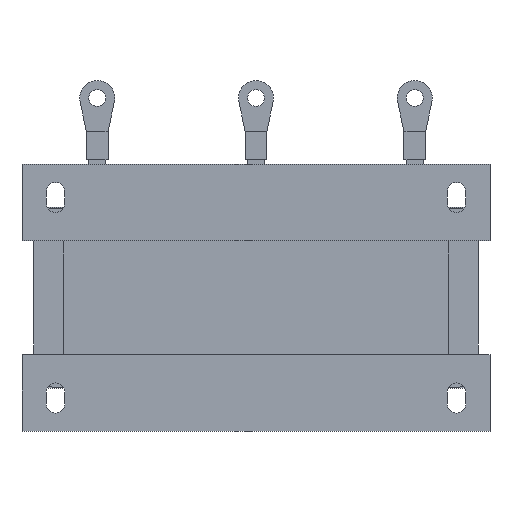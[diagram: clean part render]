
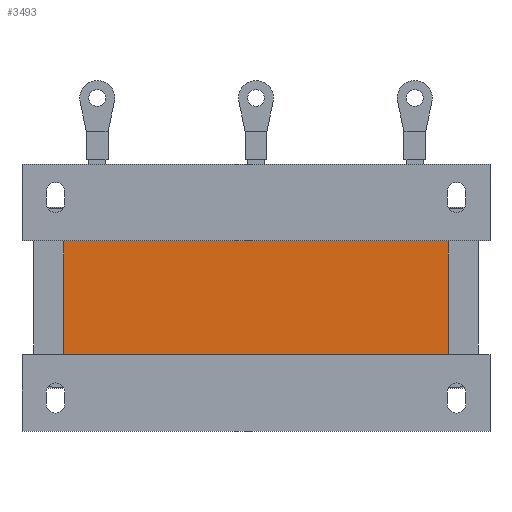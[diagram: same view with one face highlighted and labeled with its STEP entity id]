
A CAD part, front view. The second image highlights one B-rep face of the part: STEP entity #3493.
In plain terms, the highlighted planar face has unit normal (0, -1, 0).
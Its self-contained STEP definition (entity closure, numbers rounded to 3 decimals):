
#123=PLANE('',#3776);
#305=FACE_OUTER_BOUND('',#515,.T.);
#515=EDGE_LOOP('',(#2919,#2920,#2921,#2922));
#715=LINE('',#5093,#1149);
#740=LINE('',#5149,#1174);
#745=LINE('',#5160,#1179);
#871=LINE('',#5459,#1305);
#1149=VECTOR('',#4136,10.);
#1174=VECTOR('',#4183,10.);
#1179=VECTOR('',#4192,10.);
#1305=VECTOR('',#4444,10.);
#1643=VERTEX_POINT('',#5090);
#1644=VERTEX_POINT('',#5092);
#1663=VERTEX_POINT('',#5145);
#1664=VERTEX_POINT('',#5147);
#2003=EDGE_CURVE('',#1643,#1644,#715,.T.);
#2032=EDGE_CURVE('',#1664,#1663,#740,.T.);
#2037=EDGE_CURVE('',#1644,#1664,#745,.T.);
#2191=EDGE_CURVE('',#1663,#1643,#871,.T.);
#2919=ORIENTED_EDGE('',*,*,#2003,.F.);
#2920=ORIENTED_EDGE('',*,*,#2191,.F.);
#2921=ORIENTED_EDGE('',*,*,#2032,.F.);
#2922=ORIENTED_EDGE('',*,*,#2037,.F.);
#3493=ADVANCED_FACE('',(#305),#123,.F.);
#3776=AXIS2_PLACEMENT_3D('',#5460,#4445,#4446);
#4136=DIRECTION('',(1.,0.,0.));
#4183=DIRECTION('',(-1.,0.,0.));
#4192=DIRECTION('',(0.,0.,-1.));
#4444=DIRECTION('',(0.,0.,1.));
#4445=DIRECTION('center_axis',(0.,1.,0.));
#4446=DIRECTION('ref_axis',(0.,0.,1.));
#5090=CARTESIAN_POINT('',(-115.,2.,34.));
#5092=CARTESIAN_POINT('',(115.,2.,34.));
#5093=CARTESIAN_POINT('',(115.,2.,34.));
#5145=CARTESIAN_POINT('',(-115.,2.,-34.));
#5147=CARTESIAN_POINT('',(115.,2.,-34.));
#5149=CARTESIAN_POINT('',(-115.,2.,-34.));
#5160=CARTESIAN_POINT('',(115.,2.,17.));
#5459=CARTESIAN_POINT('',(-115.,2.,-17.));
#5460=CARTESIAN_POINT('Origin',(0.,2.,0.));
